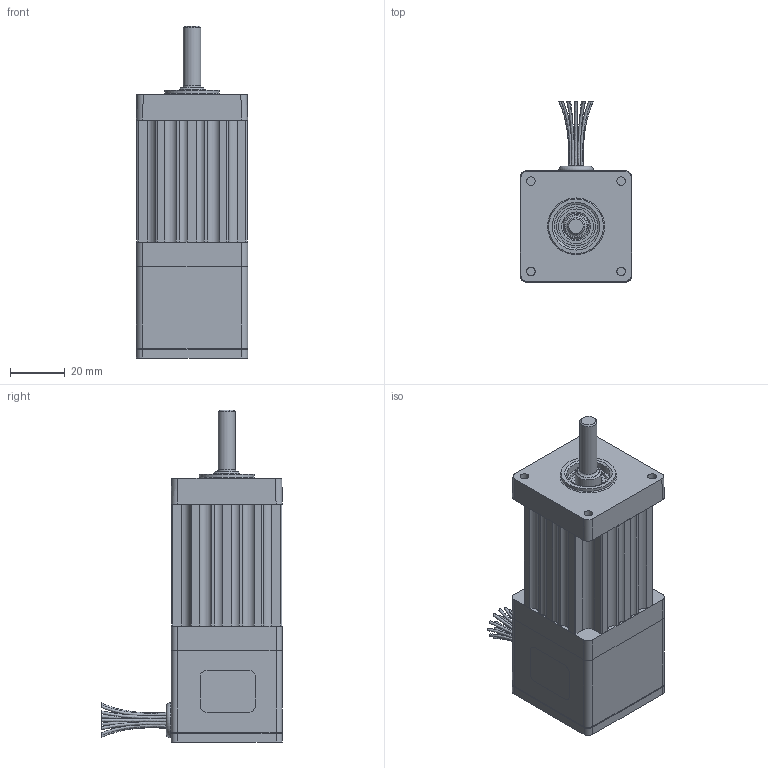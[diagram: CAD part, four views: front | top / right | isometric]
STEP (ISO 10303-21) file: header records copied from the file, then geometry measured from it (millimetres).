
FILE_DESCRIPTION((''),'2;1');
FILE_NAME('C:\CAD_work\Dummy_Modeling_Project_02-12-05\3D MODELS\SM161_FL.stp','2005-12-20T17:38:26',('jevans'),(''),'Autodesk Inventor 10','Autodesk Inventor 10','');
FILE_SCHEMA(('AUTOMOTIVE_DESIGN { 1 0 10303 214 1 1 1 1 }'));
Length unit declared in the file: inch
Products named in the file (1): SM16_FL
Bounding box: 40.67 x 66.04 x 121.41 mm (x, y, z)
Volume: 148885.4 mm3; surface area: 23086.4 mm2
Topology: 1 solids, 2 shells, 205 faces, 482 edges, 309 vertices
Faces by surface type: plane 112, cylinder 63, bspline 25, cone 3, torus 2
Full cylindrical faces by diameter (mm): 6.35 x2, 9.525 x1, 12.7 x2, 14.224 x1, 15.875 x1, 17.526 x1, 20.015 x1, 22.225 x1, 22.228 x1
Entity records: 8109 total; most frequent: CARTESIAN_POINT 3484, DIRECTION 946, ORIENTED_EDGE 900, EDGE_CURVE 450, AXIS2_PLACEMENT_3D 357, VERTEX_POINT 300, EDGE_LOOP 278, VECTOR 232
